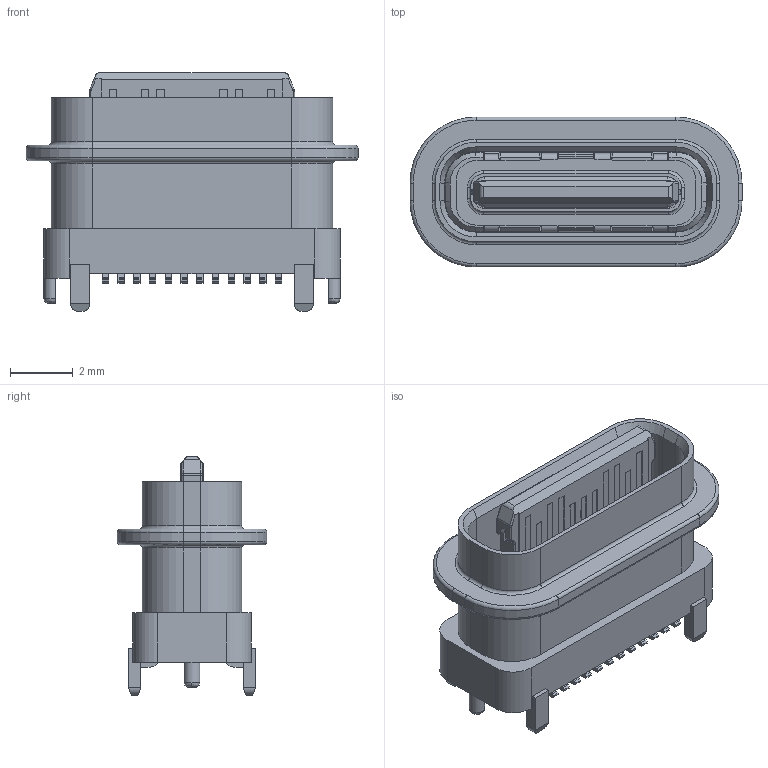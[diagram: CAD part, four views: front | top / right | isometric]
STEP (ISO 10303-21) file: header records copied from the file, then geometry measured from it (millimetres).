
FILE_DESCRIPTION((''),'2;1');
FILE_NAME('56','2023-06-30T17:17:53',('Administrator'),(''),'CREO PARAMETRIC BY PTC INC, 2019080','CREO PARAMETRIC BY PTC INC, 2019080','');
FILE_SCHEMA(('CONFIG_CONTROL_DESIGN'));
Length unit declared in the file: millimetre
Products named in the file (1): 56
Bounding box: 10.54 x 4.76 x 7.58 mm (x, y, z)
Volume: 118.7 mm3; surface area: 507.1 mm2
Topology: 1 solids, 8 shells, 1025 faces, 2824 edges, 1818 vertices
Faces by surface type: plane 721, cylinder 232, torus 32, cone 32, bspline 8
Entity records: 32724 total; most frequent: CARTESIAN_POINT 6353, ORIENTED_EDGE 5644, DIRECTION 5300, EDGE_CURVE 2822, VECTOR 2186, LINE 2186, VERTEX_POINT 1818, AXIS2_PLACEMENT_3D 1557
